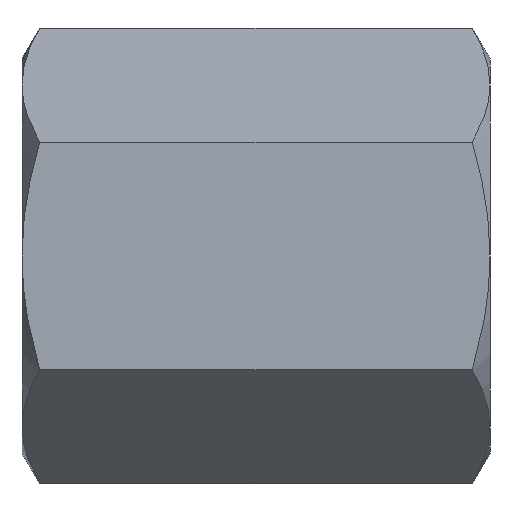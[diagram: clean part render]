
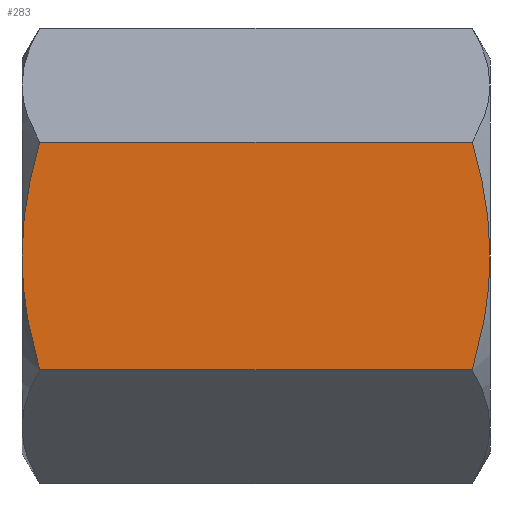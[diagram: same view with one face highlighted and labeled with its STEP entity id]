
A CAD part, left-side view. The second image highlights one B-rep face of the part: STEP entity #283.
In plain terms, the highlighted planar face has unit normal (-1, 0, 0).
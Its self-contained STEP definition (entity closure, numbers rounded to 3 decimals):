
#4 = VERTEX_POINT ( 'NONE', #40 ) ;
#35 = CARTESIAN_POINT ( 'NONE',  ( -13.5, 15.158, 6.534 ) ) ;
#38 = CARTESIAN_POINT ( 'NONE',  ( -13.5, -16., 0.66 ) ) ;
#40 = CARTESIAN_POINT ( 'NONE',  ( -13.5, 14.794, 7.794 ) ) ;
#42 = CARTESIAN_POINT ( 'NONE',  ( -13.5, 16., 0. ) ) ;
#63 = CARTESIAN_POINT ( 'NONE',  ( -13.5, -14.977, -7.16 ) ) ;
#84 = CARTESIAN_POINT ( 'NONE',  ( -13.5, 16., -7.794 ) ) ;
#97 = CARTESIAN_POINT ( 'NONE',  ( -13.5, 16., -7.794 ) ) ;
#116 = CARTESIAN_POINT ( 'NONE',  ( -13.5, -14.794, 7.794 ) ) ;
#126 = ORIENTED_EDGE ( 'NONE', *, *, #670, .T. ) ;
#132 = CARTESIAN_POINT ( 'NONE',  ( -13.5, 15.461, 5.257 ) ) ;
#136 = CARTESIAN_POINT ( 'NONE',  ( -13.5, -16., 0. ) ) ;
#141 = CARTESIAN_POINT ( 'NONE',  ( -13.5, 16., -1.319 ) ) ;
#148 = CARTESIAN_POINT ( 'NONE',  ( -13.5, -14.794, -7.794 ) ) ;
#150 = VERTEX_POINT ( 'NONE', #116 ) ;
#187 = LINE ( 'NONE', #84, #221 ) ;
#196 = PLANE ( 'NONE',  #543 ) ;
#207 = B_SPLINE_CURVE_WITH_KNOTS ( 'NONE', 3,
 ( #818, #624, #527, #433, #336, #243, #141, #42 ),
 .UNSPECIFIED., .F., .F.,
 ( 4, 2, 2, 4 ),
 ( 0.014, 0.016, 0.018, 0.022 ),
 .UNSPECIFIED. ) ;
#221 = VECTOR ( 'NONE', #921, 1000. ) ;
#230 = CARTESIAN_POINT ( 'NONE',  ( -13.5, 15.778, 3.306 ) ) ;
#243 = CARTESIAN_POINT ( 'NONE',  ( -13.5, 15.887, -2.628 ) ) ;
#265 = CARTESIAN_POINT ( 'NONE',  ( -13.5, -14.794, -7.794 ) ) ;
#283 = ADVANCED_FACE ( 'NONE', ( #735 ), #196, .F. ) ;
#319 = ORIENTED_EDGE ( 'NONE', *, *, #483, .F. ) ;
#326 = CARTESIAN_POINT ( 'NONE',  ( -13.5, 15.86, 2.65 ) ) ;
#333 = ORIENTED_EDGE ( 'NONE', *, *, #731, .F. ) ;
#336 = CARTESIAN_POINT ( 'NONE',  ( -13.5, 15.572, -4.578 ) ) ;
#345 = VERTEX_POINT ( 'NONE', #583 ) ;
#408 = CARTESIAN_POINT ( 'NONE',  ( -13.5, -14.794, 7.794 ) ) ;
#425 = CARTESIAN_POINT ( 'NONE',  ( -13.5, 15.972, 1.324 ) ) ;
#430 = CARTESIAN_POINT ( 'NONE',  ( -13.5, -16., 0. ) ) ;
#433 = CARTESIAN_POINT ( 'NONE',  ( -13.5, 15.444, -5.225 ) ) ;
#435 = ORIENTED_EDGE ( 'NONE', *, *, #595, .F. ) ;
#455 = EDGE_CURVE ( 'NONE', #755, #150, #775, .T. ) ;
#483 = EDGE_CURVE ( 'NONE', #4, #150, #764, .T. ) ;
#503 = CARTESIAN_POINT ( 'NONE',  ( -13.5, -15.158, 6.534 ) ) ;
#516 = CARTESIAN_POINT ( 'NONE',  ( -13.5, 16., 0.66 ) ) ;
#520 = CARTESIAN_POINT ( 'NONE',  ( -13.5, -16., -1.319 ) ) ;
#527 = CARTESIAN_POINT ( 'NONE',  ( -13.5, 15.146, -6.517 ) ) ;
#543 = AXIS2_PLACEMENT_3D ( 'NONE', #97, #930, #842 ) ;
#552 = CARTESIAN_POINT ( 'NONE',  ( -13.5, -16., 0. ) ) ;
#555 = VERTEX_POINT ( 'NONE', #916 ) ;
#567 = B_SPLINE_CURVE_WITH_KNOTS ( 'NONE', 3,
 ( #265, #63, #897, #811, #713, #620, #520, #430 ),
 .UNSPECIFIED., .F., .F.,
 ( 4, 2, 2, 4 ),
 ( 0.014, 0.016, 0.018, 0.022 ),
 .UNSPECIFIED. ) ;
#575 = DIRECTION ( 'NONE',  ( 0., -1., 0. ) ) ;
#583 = CARTESIAN_POINT ( 'NONE',  ( -13.5, 16., 0. ) ) ;
#595 = EDGE_CURVE ( 'NONE', #345, #4, #633, .T. ) ;
#596 = CARTESIAN_POINT ( 'NONE',  ( -13.5, -15.461, 5.257 ) ) ;
#612 = VECTOR ( 'NONE', #575, 1000. ) ;
#616 = CARTESIAN_POINT ( 'NONE',  ( -13.5, 16., 0. ) ) ;
#620 = CARTESIAN_POINT ( 'NONE',  ( -13.5, -15.887, -2.628 ) ) ;
#624 = CARTESIAN_POINT ( 'NONE',  ( -13.5, 14.977, -7.16 ) ) ;
#633 = B_SPLINE_CURVE_WITH_KNOTS ( 'NONE', 3,
 ( #616, #516, #425, #326, #230, #132, #35, #871 ),
 .UNSPECIFIED., .F., .F.,
 ( 4, 2, 2, 4 ),
 ( 0.022, 0.024, 0.026, 0.03 ),
 .UNSPECIFIED. ) ;
#635 = EDGE_CURVE ( 'NONE', #555, #813, #187, .T. ) ;
#662 = ORIENTED_EDGE ( 'NONE', *, *, #455, .T. ) ;
#666 = CARTESIAN_POINT ( 'NONE',  ( -13.5, 16., 7.794 ) ) ;
#670 = EDGE_CURVE ( 'NONE', #813, #755, #567, .T. ) ;
#688 = CARTESIAN_POINT ( 'NONE',  ( -13.5, -15.778, 3.306 ) ) ;
#713 = CARTESIAN_POINT ( 'NONE',  ( -13.5, -15.572, -4.578 ) ) ;
#731 = EDGE_CURVE ( 'NONE', #555, #345, #207, .T. ) ;
#735 = FACE_OUTER_BOUND ( 'NONE', #741, .T. ) ;
#741 = EDGE_LOOP ( 'NONE', ( #895, #126, #662, #319, #435, #333 ) ) ;
#755 = VERTEX_POINT ( 'NONE', #552 ) ;
#764 = LINE ( 'NONE', #666, #612 ) ;
#775 = B_SPLINE_CURVE_WITH_KNOTS ( 'NONE', 3,
 ( #136, #38, #875, #791, #688, #596, #503, #408 ),
 .UNSPECIFIED., .F., .F.,
 ( 4, 2, 2, 4 ),
 ( 0.022, 0.024, 0.026, 0.03 ),
 .UNSPECIFIED. ) ;
#791 = CARTESIAN_POINT ( 'NONE',  ( -13.5, -15.86, 2.65 ) ) ;
#811 = CARTESIAN_POINT ( 'NONE',  ( -13.5, -15.444, -5.225 ) ) ;
#813 = VERTEX_POINT ( 'NONE', #148 ) ;
#818 = CARTESIAN_POINT ( 'NONE',  ( -13.5, 14.794, -7.794 ) ) ;
#842 = DIRECTION ( 'NONE',  ( 0., 0., -1. ) ) ;
#871 = CARTESIAN_POINT ( 'NONE',  ( -13.5, 14.794, 7.794 ) ) ;
#875 = CARTESIAN_POINT ( 'NONE',  ( -13.5, -15.972, 1.324 ) ) ;
#895 = ORIENTED_EDGE ( 'NONE', *, *, #635, .T. ) ;
#897 = CARTESIAN_POINT ( 'NONE',  ( -13.5, -15.146, -6.517 ) ) ;
#916 = CARTESIAN_POINT ( 'NONE',  ( -13.5, 14.794, -7.794 ) ) ;
#921 = DIRECTION ( 'NONE',  ( 0., -1., 0. ) ) ;
#930 = DIRECTION ( 'NONE',  ( 1., 0., 0. ) ) ;
